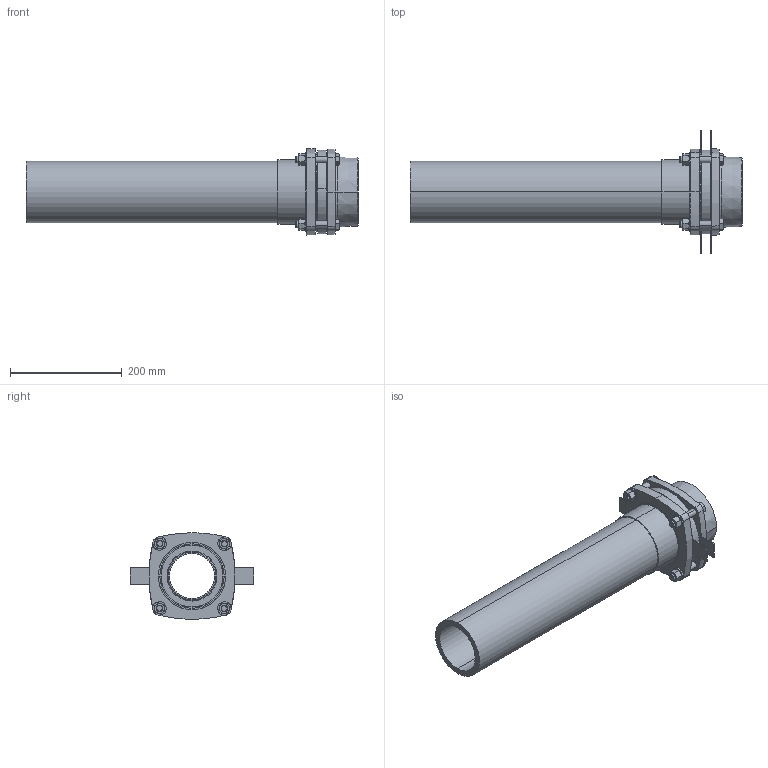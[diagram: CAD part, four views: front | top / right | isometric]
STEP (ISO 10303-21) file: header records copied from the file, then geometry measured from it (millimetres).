
FILE_DESCRIPTION (( 'STEP AP203' ), '1' );
FILE_NAME ('KP_C16-110F-L.step', '2011-08-08T12:00:02', ( '' ), ( '' ), 'SwSTEP 2.0', 'SolidWorks 2011', '' );
FILE_SCHEMA (( 'CONFIG_CONTROL_DESIGN' ));
Length unit declared in the file: millimetre
Products named in the file (1): KP_C16-110F-L
Bounding box: 593 x 220 x 154.26 mm (x, y, z)
Volume: 2583828.1 mm3; surface area: 543059.3 mm2
Topology: 1 solids, 1 shells, 410 faces, 907 edges, 538 vertices
Faces by surface type: plane 145, cone 142, cylinder 101, torus 22
Entity records: 11940 total; most frequent: CARTESIAN_POINT 2754, DIRECTION 2029, ORIENTED_EDGE 1814, EDGE_CURVE 907, AXIS2_PLACEMENT_3D 857, VERTEX_POINT 538, EDGE_LOOP 459, CIRCLE 446
